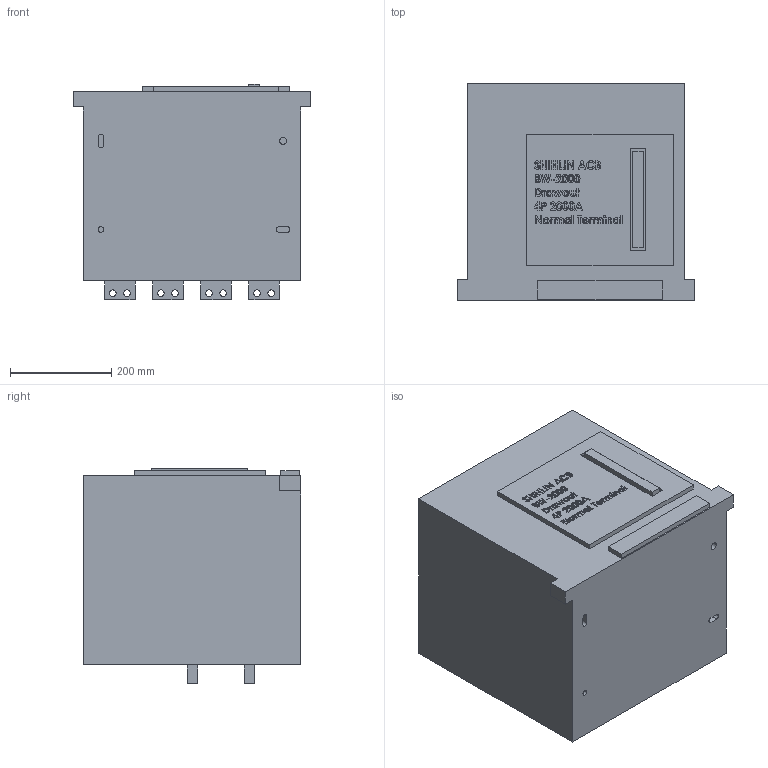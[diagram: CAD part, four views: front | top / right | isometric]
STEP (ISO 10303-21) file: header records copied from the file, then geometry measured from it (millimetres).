
FILE_DESCRIPTION (( 'STEP AP203' ), '1' );
FILE_NAME ('BW-2000-Drawout-4P-2000A-Normal Terminal.STEP', '2016-11-03T01:08:46', ( '' ), ( '' ), 'SwSTEP 2.0', 'SolidWorks 2015', '' );
FILE_SCHEMA (( 'CONFIG_CONTROL_DESIGN' ));
Length unit declared in the file: millimetre
Products named in the file (1): BW-2000-Drawout-4P-2000A-Normal Terminal
Bounding box: 470 x 430 x 426 mm (x, y, z)
Volume: 70213070 mm3; surface area: 1133416.3 mm2
Topology: 1 solids, 1 shells, 688 faces, 1809 edges, 1206 vertices
Faces by surface type: plane 428, bspline 219, cylinder 41
Entity records: 33302 total; most frequent: CARTESIAN_POINT 17563, ORIENTED_EDGE 3618, DIRECTION 2393, EDGE_CURVE 1809, VECTOR 1289, LINE 1289, VERTEX_POINT 1206, EDGE_LOOP 803
